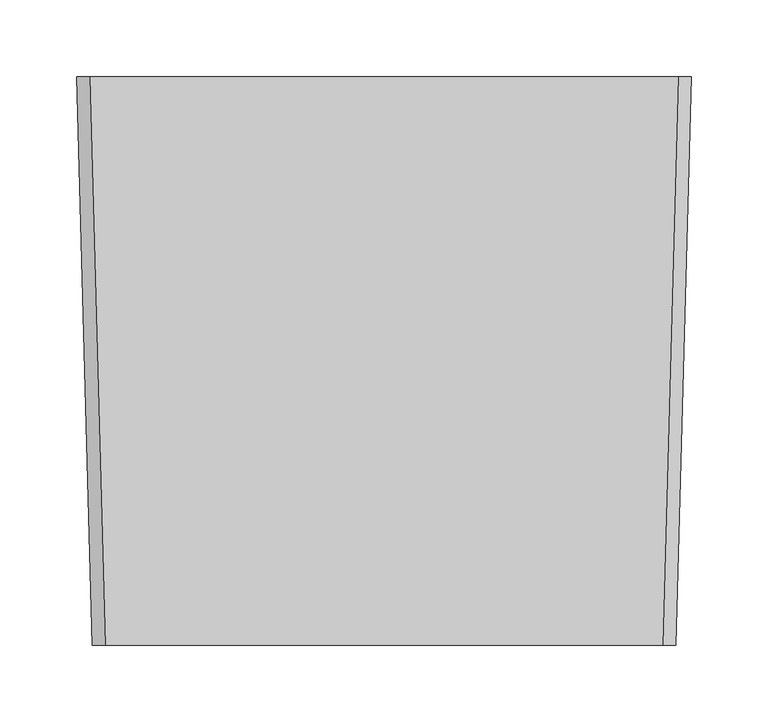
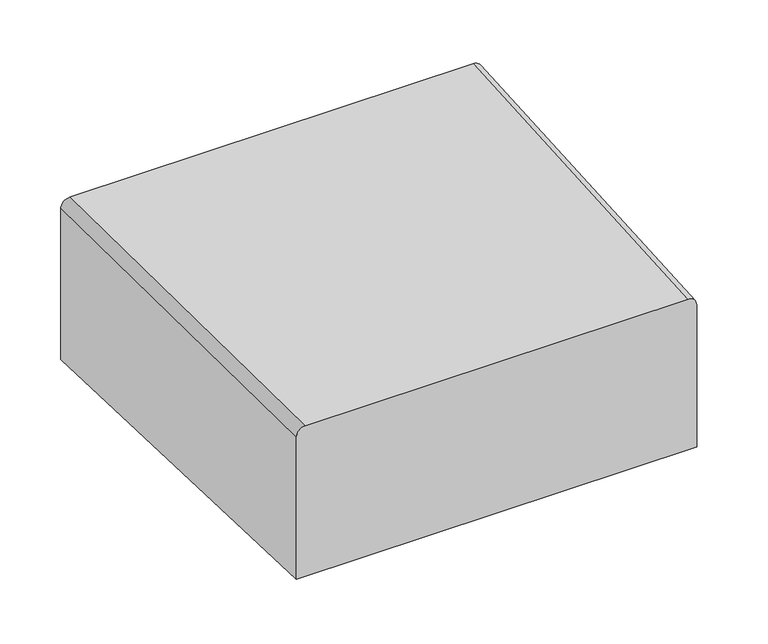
"""IFC4 building model written with IfcOpenShell, lengths in millimetres: flow terminal geometry, Deca_Shared_Caixa Acoplada para Bacia_P.280 : Bacia Sanitária - Caixa Acoplada."""

from ifc_helpers import new_model, si_unit, point, frame, origin, place, context, project, spatial, circle_curve, trimmed, source, transform, mapped, element, save
from ifc_brep_helpers import plane_surface, extruded_surface, advanced_brep


def flow_terminal_109c0629(model_context):
    return source(origin(), model_context, "Body", "AdvancedBrep", [
        advanced_brep(
        [(189.9916752, -370.0, 0.0), (189.9916752, -370.0, 142.7150888), (181.4567641, -370.0, 151.25), (-181.4567641, -370.0, 151.25), (-189.9916752, -370.0, 142.7150888), (-189.9916752, -370.0, 0.0), (200.0, 0.0, 0.0), (-200.0, 0.0, 0.0), (-200.0, 0.0, 151.4650888), (-191.4650888, 0.0, 160.0), (191.4650888, 0.0, 160.0), (200.0, 0.0, 151.4650888)],
        [
            (0, 1),
            (1, 2, circle_curve(frame((181.4567641, -370.0, 142.7150888), z_axis=(0.0, -1.0, 0.0), x_axis=(-1.0, 0.0, 0.0)), 8.5349112)),
            (2, 3),
            (3, 4, circle_curve(frame((-181.4567641, -370.0, 142.7150888), z_axis=(0.0, -1.0, 0.0), x_axis=(1.0, 0.0, 0.0)), 8.5349112)),
            (4, 5),
            (5, 0),
            (6, 7),
            (7, 8),
            (8, 9, circle_curve(frame((-191.4650888, 0.0, 151.4650888), z_axis=(0.0, 1.0, 0.0), x_axis=(1.0, 0.0, 0.0)), 8.5349112)),
            (9, 10),
            (10, 11, circle_curve(frame((191.4650888, 0.0, 151.4650888), z_axis=(0.0, 1.0, 0.0), x_axis=(-1.0, 0.0, 0.0)), 8.5349112)),
            (11, 6),
            (6, 0),
            (5, 7),
            (4, 8),
            (3, 9),
            (2, 10),
            (1, 11),
        ],
        [
            plane_surface(frame((0.0, -370.0, 97.9883629), z_axis=(0.0, -1.0, 0.0), x_axis=(-1.0, 0.0, 0.0))),
            plane_surface(frame((0.0, 0.0, 103.8216963), z_axis=(0.0, 1.0, 0.0), x_axis=(-1.0, 0.0, 0.0))),
            plane_surface(frame((0.0, 0.0, 0.0), z_axis=(0.0, 0.0, -1.0), x_axis=(-1.0, 0.0, 0.0))),
            plane_surface(frame((-200.0, 0.0, 75.7325444), z_axis=(-0.9996343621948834, -0.027039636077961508, 0.0), x_axis=(0.0, 0.0, 1.0))),
            extruded_surface(trimmed(circle_curve(frame((-181.4567641, -370.0, 142.7150888), z_axis=(0.0, 1.0, 0.0), x_axis=(1.0, 0.0, 0.0)), 8.5349112), [point((-189.9916752, -370.0, 142.7150888))], [point((-181.4567641, -370.0, 151.25))], True, "CARTESIAN"), (-10.008324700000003, 370.0, 8.75), 370.2387460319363),
            plane_surface(frame((0.0, 0.0, 160.0), z_axis=(0.0, -0.023642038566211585, 0.9997204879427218), x_axis=(1.0, 0.0, 0.0))),
            extruded_surface(trimmed(circle_curve(frame((181.4567641, -370.0, 142.7150888), z_axis=(0.0, 1.0, 0.0), x_axis=(-1.0, 0.0, 0.0)), 8.5349112), [point((181.4567641, -370.0, 151.25))], [point((189.9916752, -370.0, 142.7150888))], True, "CARTESIAN"), (10.008324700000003, 370.0, 8.75), 370.2387460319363),
            plane_surface(frame((200.0, 0.0, 75.7325444), z_axis=(0.9996343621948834, -0.027039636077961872, 0.0), x_axis=(0.0, 0.0, -1.0))),
        ],
        [
            (0, [[1, 2, 3, 4, 5, 6]]),
            (1, [[7, 8, 9, 10, 11, 12]]),
            (2, [[13, -6, 14, -7]]),
            (3, [[-14, -5, 15, -8]]),
            (4, [[-15, -4, 16, -9]]),
            (5, [[-16, -3, 17, -10]]),
            (6, [[-17, -2, 18, -11]]),
            (7, [[-18, -1, -13, -12]]),
        ],
    ),
    ])


if __name__ == "__main__":
    model = new_model("IFC4")
    model_context = context("Model", 3, world=origin())
    ifc_project = project(units=[si_unit("LENGTHUNIT", "METRE", prefix="MILLI")], contexts=[model_context])
    site = spatial("IfcSite", under=ifc_project)
    building = spatial("IfcBuilding", under=site)
    placement = place(None, origin())
    flow_terminal_shape = flow_terminal_109c0629(model_context)
    element("IfcFlowTerminal", 1, ObjectType="Deca_Shared_Caixa Acoplada para Bacia_P.280 : Bacia Sanitária - Caixa Acoplada", at=placement, inside=building, context=model_context, shape_type="MappedRepresentation", body=[
        mapped(flow_terminal_shape, transform((0.0, 0.0, 0.0), x_axis=(1.0, 0.0, 0.0), y_axis=(0.0, 1.0, 0.0), z_axis=(0.0, 0.0, 1.0))),
    ])
    save(model, "model.ifc")
